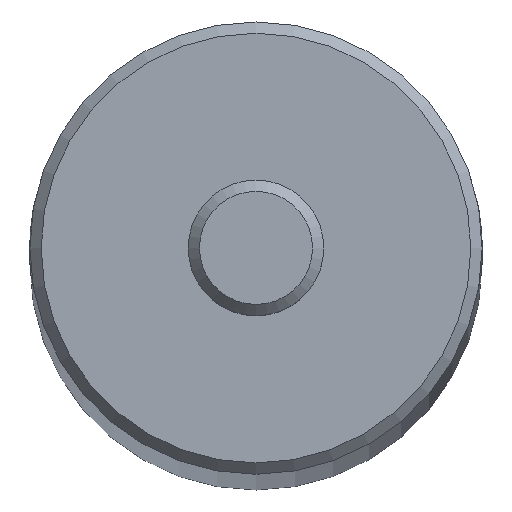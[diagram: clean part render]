
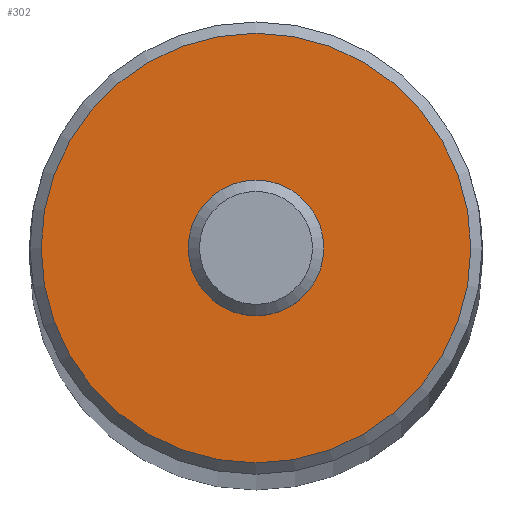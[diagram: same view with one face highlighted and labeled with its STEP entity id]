
A CAD part, top view. The second image highlights one B-rep face of the part: STEP entity #302.
In plain terms, the highlighted planar face has unit normal (0, 0, 1).
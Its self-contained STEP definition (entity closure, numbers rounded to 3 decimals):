
#268=CARTESIAN_POINT('',(9.5,0.,0.0));
#269=VERTEX_POINT('',#268);
#270=CARTESIAN_POINT('',(0.0,0.0,0.0));
#271=DIRECTION('',(0.0,0.0,-1.0));
#272=DIRECTION('',(-1.0,0.0,0.0));
#273=AXIS2_PLACEMENT_3D('',#270,#271,#272);
#274=CIRCLE('',#273,9.5);
#275=EDGE_CURVE('',#269,#269,#274,.T.);
#283=CARTESIAN_POINT('',(0.0,0.0,0.0));
#284=DIRECTION('',(0.0,0.0,-1.0));
#285=DIRECTION('',(-1.0,0.0,0.0));
#286=AXIS2_PLACEMENT_3D('',#283,#284,#285);
#287=PLANE('',#286);
#288=ORIENTED_EDGE('',*,*,#275,.F.);
#289=EDGE_LOOP('',(#288));
#290=FACE_OUTER_BOUND('',#289,.T.);
#291=CARTESIAN_POINT('',(0.0,2.5,0.0));
#292=VERTEX_POINT('',#291);
#293=CARTESIAN_POINT('',(0.0,0.0,0.0));
#294=DIRECTION('',(0.0,0.0,-1.0));
#295=DIRECTION('',(0.0,1.0,0.0));
#296=AXIS2_PLACEMENT_3D('',#293,#294,#295);
#297=CIRCLE('',#296,2.5);
#298=EDGE_CURVE('',#292,#292,#297,.T.);
#299=ORIENTED_EDGE('',*,*,#298,.T.);
#300=EDGE_LOOP('',(#299));
#301=FACE_BOUND('',#300,.T.);
#302=ADVANCED_FACE('',(#290,#301),#287,.F.);
